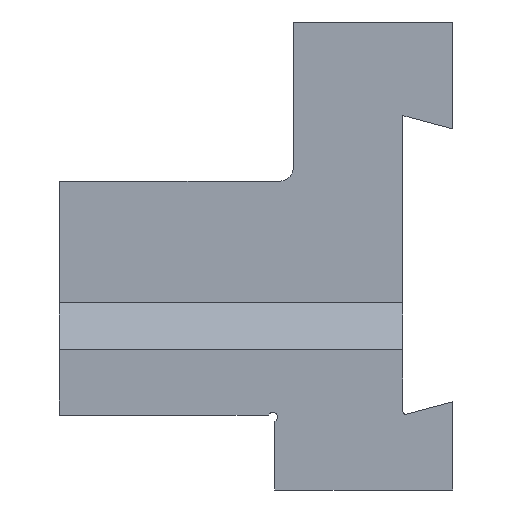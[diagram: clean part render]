
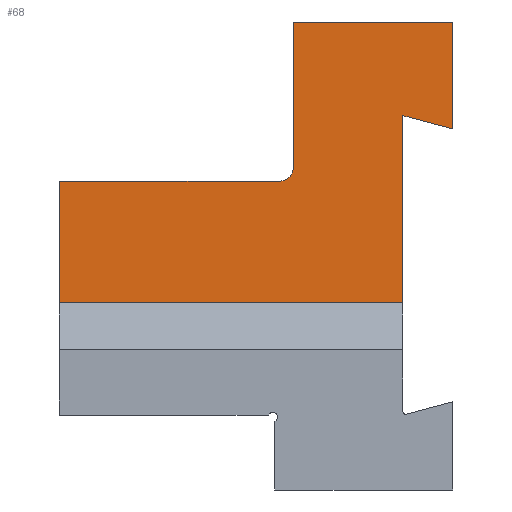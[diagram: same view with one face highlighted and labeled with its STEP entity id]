
A CAD part, front view. The second image highlights one B-rep face of the part: STEP entity #68.
In plain terms, the highlighted planar face has unit normal (0, -1, 0).
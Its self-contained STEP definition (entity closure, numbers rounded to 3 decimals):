
#50=CIRCLE('',#508,1.5);
#68=ADVANCED_FACE('',(#111),#90,.T.);
#90=PLANE('',#509);
#111=FACE_OUTER_BOUND('',#134,.T.);
#134=EDGE_LOOP('',(#237,#238,#239,#240,#241,#242,#243,#244,#245));
#237=ORIENTED_EDGE('',*,*,#365,.T.);
#238=ORIENTED_EDGE('',*,*,#328,.T.);
#239=ORIENTED_EDGE('',*,*,#366,.T.);
#240=ORIENTED_EDGE('',*,*,#332,.F.);
#241=ORIENTED_EDGE('',*,*,#314,.F.);
#242=ORIENTED_EDGE('',*,*,#364,.T.);
#243=ORIENTED_EDGE('',*,*,#321,.F.);
#244=ORIENTED_EDGE('',*,*,#367,.T.);
#245=ORIENTED_EDGE('',*,*,#368,.T.);
#272=VERTEX_POINT('',#646);
#273=VERTEX_POINT('',#648);
#278=VERTEX_POINT('',#660);
#280=VERTEX_POINT('',#663);
#286=VERTEX_POINT('',#677);
#287=VERTEX_POINT('',#678);
#290=VERTEX_POINT('',#686);
#306=VERTEX_POINT('',#748);
#307=VERTEX_POINT('',#751);
#314=EDGE_CURVE('',#272,#273,#377,.T.);
#321=EDGE_CURVE('',#278,#280,#384,.T.);
#328=EDGE_CURVE('',#286,#287,#391,.T.);
#332=EDGE_CURVE('',#273,#290,#395,.T.);
#364=EDGE_CURVE('',#272,#280,#422,.T.);
#365=EDGE_CURVE('',#306,#286,#423,.T.);
#366=EDGE_CURVE('',#287,#290,#50,.T.);
#367=EDGE_CURVE('',#278,#307,#424,.T.);
#368=EDGE_CURVE('',#307,#306,#425,.T.);
#377=LINE('',#647,#434);
#384=LINE('',#662,#441);
#391=LINE('',#676,#448);
#395=LINE('',#685,#452);
#422=LINE('',#745,#479);
#423=LINE('',#747,#480);
#424=LINE('',#750,#481);
#425=LINE('',#752,#482);
#434=VECTOR('',#525,1.);
#441=VECTOR('',#534,1.);
#448=VECTOR('',#543,1.);
#452=VECTOR('',#549,1.);
#479=VECTOR('',#610,1.);
#480=VECTOR('',#613,1.);
#481=VECTOR('',#616,1.);
#482=VECTOR('',#617,1.);
#508=AXIS2_PLACEMENT_3D('',#749,#614,#615);
#509=AXIS2_PLACEMENT_3D('',#753,#618,#619);
#525=DIRECTION('',(0.,0.,1.));
#534=DIRECTION('',(0.,0.,-1.));
#543=DIRECTION('',(0.,0.,-1.));
#549=DIRECTION('',(1.,0.,0.));
#610=DIRECTION('',(1.,0.,0.));
#613=DIRECTION('',(-1.,0.,0.));
#614=DIRECTION('',(0.,1.,0.));
#615=DIRECTION('',(0.,0.,-1.));
#616=DIRECTION('',(0.966,0.,-0.259));
#617=DIRECTION('',(0.,0.,1.));
#618=DIRECTION('',(0.,-1.,0.));
#619=DIRECTION('',(0.,0.,-1.));
#646=CARTESIAN_POINT('',(-36.7,-5.,-20.375));
#647=CARTESIAN_POINT('',(-36.7,-5.,-7.375));
#648=CARTESIAN_POINT('',(-36.7,-5.,-7.375));
#660=CARTESIAN_POINT('',(0.,-5.,-0.374));
#662=CARTESIAN_POINT('',(0.,-5.,-6.875));
#663=CARTESIAN_POINT('',(0.,-5.,-20.375));
#676=CARTESIAN_POINT('',(-11.7,-5.,-3.135));
#677=CARTESIAN_POINT('',(-11.7,-5.,9.625));
#678=CARTESIAN_POINT('',(-11.7,-5.,-5.875));
#685=CARTESIAN_POINT('',(-11.7,-5.,-7.375));
#686=CARTESIAN_POINT('',(-13.2,-5.,-7.375));
#745=CARTESIAN_POINT('',(95.,-5.,-20.375));
#747=CARTESIAN_POINT('',(5.3,-5.,9.625));
#748=CARTESIAN_POINT('',(5.3,-5.,9.625));
#749=CARTESIAN_POINT('',(-13.2,-5.,-5.875));
#750=CARTESIAN_POINT('',(-0.698,-5.,-0.187));
#751=CARTESIAN_POINT('',(5.3,-5.,-1.794));
#752=CARTESIAN_POINT('',(5.3,-5.,-1.794));
#753=CARTESIAN_POINT('',(95.,-5.,-20.375));
